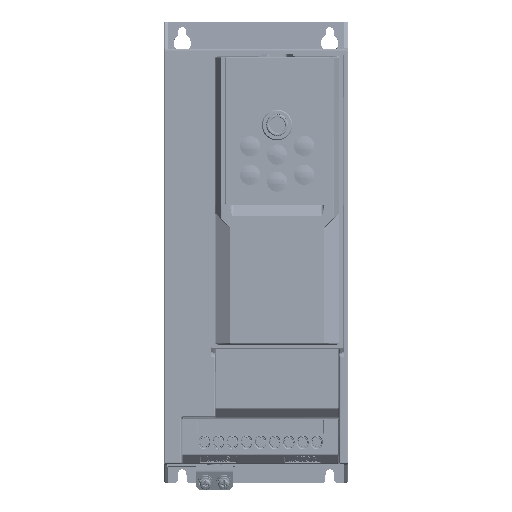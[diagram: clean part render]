
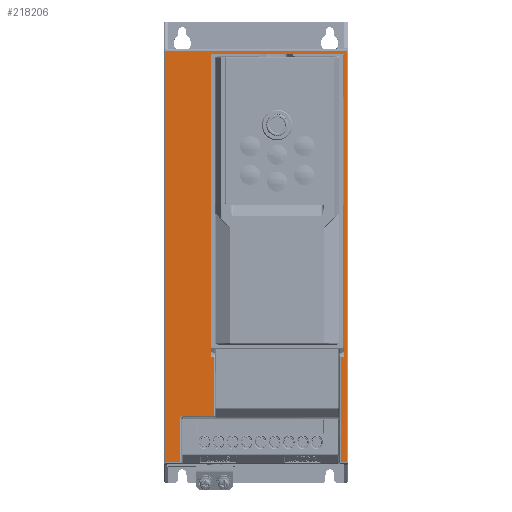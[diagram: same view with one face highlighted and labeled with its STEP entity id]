
A CAD part, top view. The second image highlights one B-rep face of the part: STEP entity #218206.
In plain terms, the highlighted planar face has unit normal (0, 0, 1).
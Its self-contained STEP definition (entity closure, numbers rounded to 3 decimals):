
#25439=DIRECTION('',(-1.,0.,0.));
#25440=VECTOR('',#25439,1.694);
#25441=CARTESIAN_POINT('',(36.129,-164.399,0.));
#25442=LINE('',#25441,#25440);
#25446=DIRECTION('',(-1.,0.,0.));
#25447=VECTOR('',#25446,70.658);
#25448=CARTESIAN_POINT('',(35.329,0.129,0.));
#25449=LINE('',#25448,#25447);
#25453=DIRECTION('',(1.,0.,0.));
#25454=VECTOR('',#25453,1.694);
#25455=CARTESIAN_POINT('',(-36.129,-164.399,0.));
#25456=LINE('',#25455,#25454);
#25460=DIRECTION('',(0.,-1.,0.));
#25461=VECTOR('',#25460,31.939);
#25462=CARTESIAN_POINT('',(-34.435,-164.399,0.));
#25463=LINE('',#25462,#25461);
#25467=DIRECTION('',(1.,0.,0.));
#25468=VECTOR('',#25467,16.627);
#25469=CARTESIAN_POINT('',(-51.062,-196.339,
0.));
#25470=LINE('',#25469,#25468);
#25474=CARTESIAN_POINT('',(-52.661,-197.938,
0.));
#25475=CARTESIAN_POINT('',(-52.661,-197.78,
0.));
#25476=CARTESIAN_POINT('',(-52.618,-197.482,
0.));
#25477=CARTESIAN_POINT('',(-52.424,-197.061,
0.));
#25478=CARTESIAN_POINT('',(-52.153,-196.747,
0.));
#25479=CARTESIAN_POINT('',(-51.847,-196.529,
0.));
#25480=CARTESIAN_POINT('',(-51.5,-196.383,
0.));
#25481=CARTESIAN_POINT('',(-51.215,-196.339,
0.));
#25482=CARTESIAN_POINT('',(-51.062,-196.339,
0.));
#25487=DIRECTION('',(0.,1.,0.));
#25488=VECTOR('',#25487,23.762);
#25489=CARTESIAN_POINT('',(-52.661,-221.7,0.));
#25490=LINE('',#25489,#25488);
#25494=DIRECTION('',(1.,0.,0.));
#25495=VECTOR('',#25494,8.039);
#25496=CARTESIAN_POINT('',(-60.7,-221.7,0.));
#25497=LINE('',#25496,#25495);
#25501=DIRECTION('',(0.,-1.,0.));
#25502=VECTOR('',#25501,223.4);
#25503=CARTESIAN_POINT('',(-60.7,1.7,0.));
#25504=LINE('',#25503,#25502);
#25508=DIRECTION('',(-1.,0.,0.));
#25509=VECTOR('',#25508,98.4);
#25510=CARTESIAN_POINT('',(37.7,1.7,0.));
#25511=LINE('',#25510,#25509);
#25515=DIRECTION('',(0.,1.,0.));
#25516=VECTOR('',#25515,223.4);
#25517=CARTESIAN_POINT('',(37.7,-221.7,0.));
#25518=LINE('',#25517,#25516);
#25522=DIRECTION('',(1.,0.,0.));
#25523=VECTOR('',#25522,3.265);
#25524=CARTESIAN_POINT('',(34.435,-221.7,0.));
#25525=LINE('',#25524,#25523);
#25529=DIRECTION('',(0.,-1.,0.));
#25530=VECTOR('',#25529,57.301);
#25531=CARTESIAN_POINT('',(34.435,-164.399,0.));
#25532=LINE('',#25531,#25530);
#79209=CARTESIAN_POINT('',(-34.435,-164.399,0.));
#80916=DIRECTION('',(0.,1.,0.));
#80917=VECTOR('',#80916,163.728);
#80918=CARTESIAN_POINT('',(-36.129,-164.399,0.));
#80919=LINE('',#80918,#80917);
#80962=CARTESIAN_POINT('',(-36.129,-0.671,0.));
#80963=CARTESIAN_POINT('',(-36.129,-0.404,0.));
#80964=CARTESIAN_POINT('',(-35.927,-0.073,0.));
#80965=CARTESIAN_POINT('',(-35.596,0.129,0.));
#80966=CARTESIAN_POINT('',(-35.329,0.129,0.));
#80985=CARTESIAN_POINT('',(35.329,0.129,0.));
#80986=CARTESIAN_POINT('',(35.596,0.129,0.));
#80987=CARTESIAN_POINT('',(35.927,-0.073,0.));
#80988=CARTESIAN_POINT('',(36.129,-0.404,0.));
#80989=CARTESIAN_POINT('',(36.129,-0.671,0.));
#80994=DIRECTION('',(0.,-1.,0.));
#80995=VECTOR('',#80994,163.728);
#80996=CARTESIAN_POINT('',(36.129,-0.671,0.));
#80997=LINE('',#80996,#80995);
#81055=CARTESIAN_POINT('',(34.435,-164.399,0.));
#198625=CARTESIAN_POINT('',(-36.129,-0.671,0.));
#198626=VERTEX_POINT('',#198625);
#198627=CARTESIAN_POINT('',(-35.329,0.129,0.));
#198628=VERTEX_POINT('',#198627);
#198631=CARTESIAN_POINT('',(35.329,0.129,0.));
#198632=VERTEX_POINT('',#198631);
#198633=CARTESIAN_POINT('',(36.129,-0.671,0.));
#198634=VERTEX_POINT('',#198633);
#199104=CARTESIAN_POINT('',(34.435,-221.7,0.));
#199105=CARTESIAN_POINT('',(37.7,-221.7,0.));
#199106=VERTEX_POINT('',#199104);
#199107=VERTEX_POINT('',#199105);
#199112=CARTESIAN_POINT('',(37.7,1.7,0.));
#199113=VERTEX_POINT('',#199112);
#199118=CARTESIAN_POINT('',(-60.7,1.7,0.));
#199119=VERTEX_POINT('',#199118);
#199124=CARTESIAN_POINT('',(-60.7,-221.7,0.));
#199125=VERTEX_POINT('',#199124);
#199130=CARTESIAN_POINT('',(-52.661,-221.7,0.));
#199131=VERTEX_POINT('',#199130);
#199136=CARTESIAN_POINT('',(-52.661,-197.938,
0.));
#199137=VERTEX_POINT('',#199136);
#199140=VERTEX_POINT('',#25482);
#199144=CARTESIAN_POINT('',(-34.435,-196.339,0.));
#199145=VERTEX_POINT('',#199144);
#199169=VERTEX_POINT('',#81055);
#199171=CARTESIAN_POINT('',(36.129,-164.399,0.));
#199172=VERTEX_POINT('',#199171);
#199197=VERTEX_POINT('',#79209);
#199200=CARTESIAN_POINT('',(-36.129,-164.399,0.));
#199201=VERTEX_POINT('',#199200);
#218165=CARTESIAN_POINT('',(0.,0.,0.));
#218166=DIRECTION('',(0.,0.,1.));
#218167=DIRECTION('',(1.,0.,0.));
#218168=AXIS2_PLACEMENT_3D('',#218165,#218166,#218167);
#218169=PLANE('',#218168);
#218171=ORIENTED_EDGE('',*,*,#218170,.F.);
#218173=ORIENTED_EDGE('',*,*,#218172,.F.);
#218175=ORIENTED_EDGE('',*,*,#218174,.F.);
#218177=ORIENTED_EDGE('',*,*,#218176,.T.);
#218179=ORIENTED_EDGE('',*,*,#218178,.F.);
#218181=ORIENTED_EDGE('',*,*,#218180,.F.);
#218183=ORIENTED_EDGE('',*,*,#218182,.T.);
#218185=ORIENTED_EDGE('',*,*,#218184,.T.);
#218187=ORIENTED_EDGE('',*,*,#218186,.F.);
#218189=ORIENTED_EDGE('',*,*,#218188,.F.);
#218191=ORIENTED_EDGE('',*,*,#218190,.F.);
#218193=ORIENTED_EDGE('',*,*,#218192,.F.);
#218195=ORIENTED_EDGE('',*,*,#218194,.F.);
#218197=ORIENTED_EDGE('',*,*,#218196,.F.);
#218199=ORIENTED_EDGE('',*,*,#218198,.F.);
#218201=ORIENTED_EDGE('',*,*,#218200,.F.);
#218203=ORIENTED_EDGE('',*,*,#218202,.F.);
#218204=EDGE_LOOP('',(#218171,#218173,#218175,#218177,#218179,#218181,#218183,
#218185,#218187,#218189,#218191,#218193,#218195,#218197,#218199,#218201,
#218203));
#218205=FACE_OUTER_BOUND('',#218204,.F.);
#218206=ADVANCED_FACE('',(#218205),#218169,.T.);
#25483=B_SPLINE_CURVE_WITH_KNOTS('',3,(#25474,#25475,#25476,#25477,#25478,
#25479,#25480,#25481,#25482),.UNSPECIFIED.,.F.,.F.,(4,1,1,1,1,1,4),(0.,
0.167,0.333,0.5,0.667,0.833,
1.),.UNSPECIFIED.);
#80967=B_SPLINE_CURVE_WITH_KNOTS('',3,(#80962,#80963,#80964,#80965,#80966),
.UNSPECIFIED.,.F.,.F.,(4,1,4),(0.,0.5,1.),.UNSPECIFIED.);
#80990=B_SPLINE_CURVE_WITH_KNOTS('',3,(#80985,#80986,#80987,#80988,#80989),
.UNSPECIFIED.,.F.,.F.,(4,1,4),(0.,0.5,1.),.UNSPECIFIED.);
#218170=EDGE_CURVE('',#199172,#199169,#25442,.T.);
#218172=EDGE_CURVE('',#198634,#199172,#80997,.T.);
#218174=EDGE_CURVE('',#198632,#198634,#80990,.T.);
#218176=EDGE_CURVE('',#198632,#198628,#25449,.T.);
#218178=EDGE_CURVE('',#198626,#198628,#80967,.T.);
#218180=EDGE_CURVE('',#199201,#198626,#80919,.T.);
#218182=EDGE_CURVE('',#199201,#199197,#25456,.T.);
#218184=EDGE_CURVE('',#199197,#199145,#25463,.T.);
#218186=EDGE_CURVE('',#199140,#199145,#25470,.T.);
#218188=EDGE_CURVE('',#199137,#199140,#25483,.T.);
#218190=EDGE_CURVE('',#199131,#199137,#25490,.T.);
#218192=EDGE_CURVE('',#199125,#199131,#25497,.T.);
#218194=EDGE_CURVE('',#199119,#199125,#25504,.T.);
#218196=EDGE_CURVE('',#199113,#199119,#25511,.T.);
#218198=EDGE_CURVE('',#199107,#199113,#25518,.T.);
#218200=EDGE_CURVE('',#199106,#199107,#25525,.T.);
#218202=EDGE_CURVE('',#199169,#199106,#25532,.T.);
